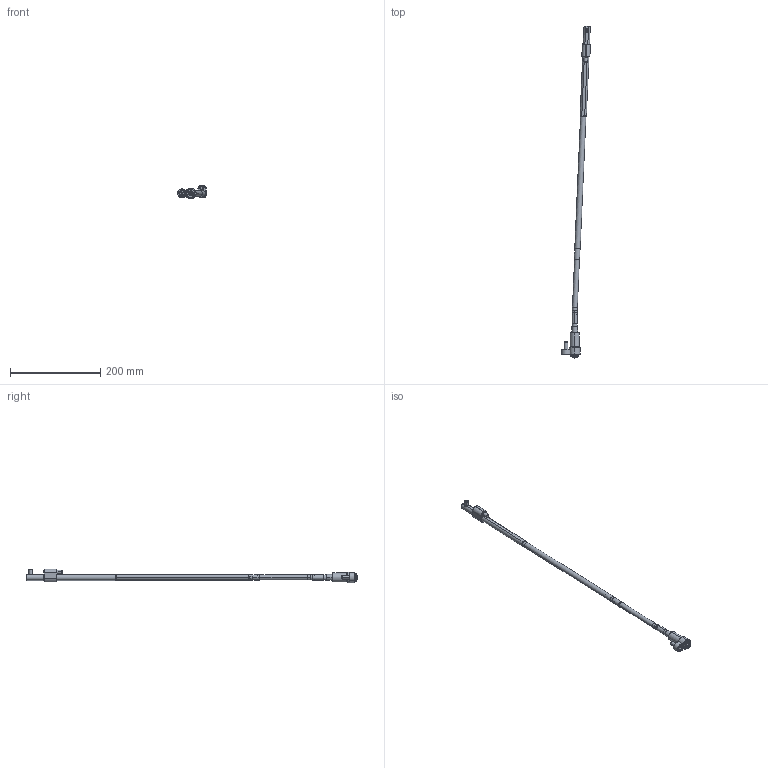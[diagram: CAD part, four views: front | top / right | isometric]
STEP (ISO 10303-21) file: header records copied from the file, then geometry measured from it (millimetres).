
FILE_DESCRIPTION (( 'STEP AP214' ), '1' );
FILE_NAME ('WL120100-EJE 2,5°.STEP', '2021-03-19T15:33:27', ( '' ), ( '' ), 'SwSTEP 2.0', 'SolidWorks 2019', '' );
FILE_SCHEMA (( 'AUTOMOTIVE_DESIGN' ));
Length unit declared in the file: millimetre
Products named in the file (17): Web-WL12-A1; Web-WL12-A8; Web-WL12-A2; Web-WL12-XX_ON-WL120100-2,5; 9DR2808-TOR; 1DIN912820_DIN 912 M8 x 20 --- 20C; WL120100-EJE 2,5°; WL120100-D; WL120100-B1; 1DIN912645_DIN 912 M6 x 45 --- 45C; WL120100-B; 8WL12EJEP; 3IMAN5X3-150_con sellador; Web-WL12-F01; WL120100-E; Web-WL12-A3; Web-WL12-F00.SLDPRT
Assembly tree (16 placements, depth 3):
  WL120100-EJE 2,5°
    Web-WL12-A8
    Web-WL12-XX_ON-WL120100-2,5
    Web-WL12-A3
    Web-WL12-A2
    Web-WL12-A1
    Web-WL12-F00.SLDPRT
      Web-WL12-F01
      1DIN912820_DIN 912 M8 x 20 --- 20C
      1DIN912645_DIN 912 M6 x 45 --- 45C
    WL120100-D
    8WL12EJEP
    WL120100-E
    9DR2808-TOR
    WL120100-B
      WL120100-B1
      3IMAN5X3-150_con sellador
Bounding box: 64.08 x 737.69 x 29.9 mm (x, y, z)
Volume: 113341.8 mm3; surface area: 49842.4 mm2
Topology: 15 solids, 15 shells, 432 faces, 906 edges, 525 vertices
Faces by surface type: plane 139, cylinder 123, cone 120, torus 50
Entity records: 13661 total; most frequent: DIRECTION 2240, CARTESIAN_POINT 2104, ORIENTED_EDGE 1788, AXIS2_PLACEMENT_3D 929, EDGE_CURVE 894, VERTEX_POINT 525, EDGE_LOOP 477, CIRCLE 476
